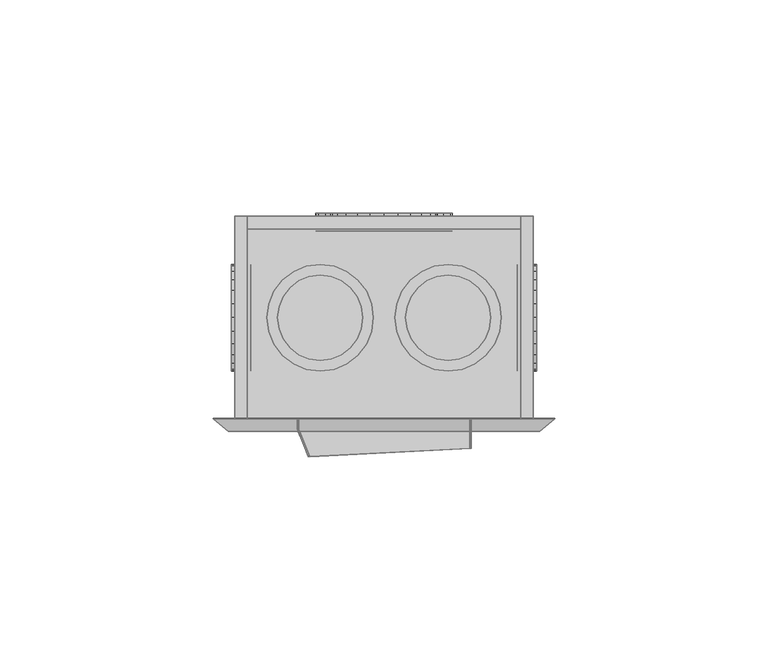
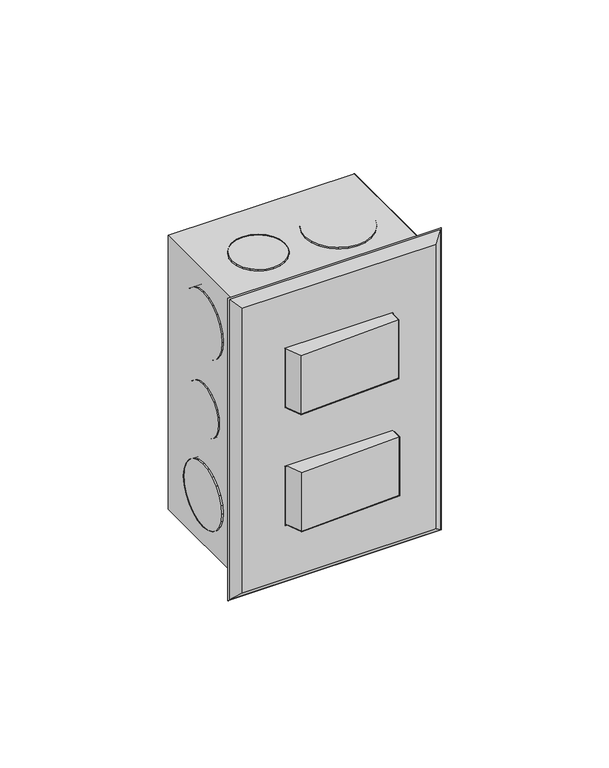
"""IFC4 building model written with IfcOpenShell, lengths in millimetres: proxy geometry,  210663 :  210663."""

from ifc_helpers import new_model, si_unit, origin, place, context, project, spatial, triangles, source, transform, mapped, element, save


def generic_models_86e0068b(model_context):
    return source(origin(), model_context, "Body", "Tessellation", [
        triangles([(5486.0000244, 27548.2998779, 1254.3000378), (5483.0002075, 27548.2998779, 1148.7000154), (5486.0000244, 27548.2998779, 1145.6999805), (5483.0002075, 27548.2998779, 1251.2999302), (5416.0002274, 27548.2998779, 1254.3000378), (5419.0000443, 27548.2998779, 1251.2999302), (5416.0002274, 27548.2998779, 1145.6999805), (5419.0000443, 27548.2998779, 1148.7000154), (5483.0002075, 27595.7993042, 1251.2999302), (5483.0002075, 27595.7993042, 1148.7000154), (5416.0002274, 27595.7993042, 1254.3000378), (5416.0002274, 27595.7993042, 1145.6999805), (5419.0000443, 27595.7993042, 1251.2999302), (5486.0000244, 27595.7993042, 1145.6999805), (5419.0000443, 27595.7993042, 1148.7000154), (5486.0000244, 27595.7993042, 1254.3000378), (5483.0002075, 27592.7994873, 1251.2999302), (5419.0000443, 27592.7994873, 1148.7000154), (5483.0002075, 27592.7994873, 1148.7000154), (5419.0000443, 27592.7994873, 1251.2999302), (5458.9999283, 27596.4992615, 1186.0999855), (5464.9001495, 27596.4992615, 1191.9999887), (5462.2997269, 27596.4992615, 1188.6999722), (5455.2001602, 27596.4992615, 1184.5000105), (5466.5000519, 27596.4992615, 1195.8999687), (5450.9998352, 27596.4992615, 1183.9999683), (5467.0000214, 27596.4992615, 1200.0000092), (5446.9000854, 27596.4992615, 1184.5000105), (5466.5000519, 27596.4992615, 1204.0999769), (5442.9997421, 27596.4992615, 1186.0999855), (5464.9001495, 27596.4992615, 1208.0000296), (5439.6999435, 27596.4992615, 1188.6999722), (5462.2997269, 27596.4992615, 1211.2999735), (5437.2000961, 27596.4992615, 1191.9999887), (5458.9999283, 27596.4992615, 1213.9000328), (5435.6001938, 27596.4992615, 1195.8999687), (5455.2001602, 27596.4992615, 1215.5000078), (5435.0002304, 27596.4992615, 1200.0000092), (5450.9998352, 27596.4992615, 1215.9999773), (5435.6001938, 27596.4992615, 1204.0999769), (5446.9000854, 27596.4992615, 1215.5000078), (5437.2000961, 27596.4992615, 1208.0000296), (5442.9997421, 27596.4992615, 1213.9000328), (5439.6999435, 27596.4992615, 1211.2999735), (5455.2001602, 27592.2995178, 1215.5000078), (5450.9998352, 27592.2995178, 1215.9999773), (5458.9999283, 27592.2995178, 1213.9000328), (5462.2997269, 27592.2995178, 1211.2999735), (5464.9001495, 27592.2995178, 1208.0000296), (5466.5000519, 27592.2995178, 1204.0999769), (5467.0000214, 27592.2995178, 1200.0000092), (5466.5000519, 27592.2995178, 1195.8999687), (5464.9001495, 27592.2995178, 1191.9999887), (5462.2997269, 27592.2995178, 1188.6999722), (5458.9999283, 27592.2995178, 1186.0999855), (5455.2001602, 27592.2995178, 1184.5000105), (5450.9998352, 27592.2995178, 1183.9999683), (5446.9000854, 27592.2995178, 1184.5000105), (5442.9997421, 27592.2995178, 1186.0999855), (5439.6999435, 27592.2995178, 1188.6999722), (5437.2000961, 27592.2995178, 1191.9999887), (5435.6001938, 27592.2995178, 1195.8999687), (5435.0002304, 27592.2995178, 1200.0000092), (5435.6001938, 27592.2995178, 1204.0999769), (5437.2000961, 27592.2995178, 1208.0000296), (5439.6999435, 27592.2995178, 1211.2999735), (5442.9997421, 27592.2995178, 1213.9000328), (5446.9000854, 27592.2995178, 1215.5000078), (5461.8997513, 27592.2995178, 1227.8000565), (5457.300032, 27592.2995178, 1223.2000465), (5459.8998734, 27592.2995178, 1225.2000698), (5463.1002594, 27592.2995178, 1230.8000187), (5454.3002151, 27592.2995178, 1221.8999805), (5463.500235, 27592.2995178, 1233.9999687), (5450.9998352, 27592.2995178, 1221.500005), (5463.1002594, 27592.2995178, 1237.2000641), (5447.8000305, 27592.2995178, 1221.8999805), (5461.8997513, 27592.2995178, 1240.3000202), (5444.8002136, 27592.2995178, 1223.2000465), (5459.8998734, 27592.2995178, 1242.800013), (5442.199791, 27592.2995178, 1225.2000698), (5440.199913, 27592.2995178, 1227.8000565), (5457.300032, 27592.2995178, 1244.8000362), (5454.3002151, 27592.2995178, 1246.0999569), (5438.9999863, 27592.2995178, 1230.8000187), (5450.9998352, 27592.2995178, 1246.4999325), (5438.5000168, 27592.2995178, 1233.9999687), (5447.8000305, 27592.2995178, 1246.0999569), (5438.9999863, 27592.2995178, 1237.2000641), (5440.199913, 27592.2995178, 1240.3000202), (5444.8002136, 27592.2995178, 1244.8000362), (5442.199791, 27592.2995178, 1242.800013), (5438.9999863, 27596.4992615, 1230.8000187), (5440.199913, 27596.4992615, 1227.8000565), (5442.199791, 27596.4992615, 1225.2000698), (5444.8002136, 27596.4992615, 1223.2000465), (5447.8000305, 27596.4992615, 1221.8999805), (5450.9998352, 27596.4992615, 1221.500005), (5454.3002151, 27596.4992615, 1221.8999805), (5457.300032, 27596.4992615, 1223.2000465), (5459.8998734, 27596.4992615, 1225.2000698), (5461.8997513, 27596.4992615, 1227.8000565), (5463.1002594, 27596.4992615, 1230.8000187), (5463.500235, 27596.4992615, 1233.9999687), (5463.1002594, 27596.4992615, 1237.2000641), (5461.8997513, 27596.4992615, 1240.3000202), (5459.8998734, 27596.4992615, 1242.800013), (5457.300032, 27596.4992615, 1244.8000362), (5454.3002151, 27596.4992615, 1246.0999569), (5450.9998352, 27596.4992615, 1246.4999325), (5447.8000305, 27596.4992615, 1246.0999569), (5444.8002136, 27596.4992615, 1244.8000362), (5442.199791, 27596.4992615, 1242.800013), (5440.199913, 27596.4992615, 1240.3000202), (5438.9999863, 27596.4992615, 1237.2000641), (5438.5000168, 27596.4992615, 1233.9999687), (5457.300032, 27596.4992615, 1155.1999821), (5461.8997513, 27596.4992615, 1159.6999981), (5459.8998734, 27596.4992615, 1157.2000053), (5454.3002151, 27596.4992615, 1153.8999887), (5463.1002594, 27596.4992615, 1162.8000269), (5450.9998352, 27596.4992615, 1153.5000132), (5463.500235, 27596.4992615, 1165.9999769), (5447.8000305, 27596.4992615, 1153.8999887), (5463.1002594, 27596.4992615, 1169.1999996), (5444.8002136, 27596.4992615, 1155.1999821), (5461.8997513, 27596.4992615, 1172.2000345), (5442.199791, 27596.4992615, 1157.2000053), (5459.8998734, 27596.4992615, 1174.8000212), (5440.199913, 27596.4992615, 1159.6999981), (5457.300032, 27596.4992615, 1176.7999718), (5438.9999863, 27596.4992615, 1162.8000269), (5454.3002151, 27596.4992615, 1178.0999651), (5450.9998352, 27596.4992615, 1178.5000134), (5438.5000168, 27596.4992615, 1165.9999769), (5438.9999863, 27596.4992615, 1169.1999996), (5447.8000305, 27596.4992615, 1178.0999651), (5440.199913, 27596.4992615, 1172.2000345), (5444.8002136, 27596.4992615, 1176.7999718), (5442.199791, 27596.4992615, 1174.8000212), (5454.3002151, 27592.2995178, 1178.0999651), (5450.9998352, 27592.2995178, 1178.5000134), (5457.300032, 27592.2995178, 1176.7999718), (5459.8998734, 27592.2995178, 1174.8000212), (5461.8997513, 27592.2995178, 1172.2000345), (5463.1002594, 27592.2995178, 1169.1999996), (5463.500235, 27592.2995178, 1165.9999769), (5463.1002594, 27592.2995178, 1162.8000269), (5461.8997513, 27592.2995178, 1159.6999981), (5459.8998734, 27592.2995178, 1157.2000053), (5457.300032, 27592.2995178, 1155.1999821), (5454.3002151, 27592.2995178, 1153.8999887), (5450.9998352, 27592.2995178, 1153.5000132), (5447.8000305, 27592.2995178, 1153.8999887), (5444.8002136, 27592.2995178, 1155.1999821), (5442.199791, 27592.2995178, 1157.2000053), (5440.199913, 27592.2995178, 1159.6999981), (5438.9999863, 27592.2995178, 1162.8000269), (5438.5000168, 27592.2995178, 1165.9999769), (5438.9999863, 27592.2995178, 1169.1999996), (5440.199913, 27592.2995178, 1172.2000345), (5442.199791, 27592.2995178, 1174.8000212), (5444.8002136, 27592.2995178, 1176.7999718), (5447.8000305, 27592.2995178, 1178.0999651), (5486.7999756, 27580.7002258, 1195.0000237), (5486.7999756, 27577.0004517, 1191.3000315), (5486.7999756, 27579.1003235, 1192.9000065), (5486.7999756, 27581.7001648, 1197.4000225), (5486.7999756, 27574.6005981, 1190.3000198), (5486.7999756, 27582.0001465, 1200.0000092), (5486.7999756, 27572.0007568, 1189.9999655), (5486.7999756, 27581.7001648, 1202.5999958), (5486.7999756, 27569.4009155, 1190.3000198), (5486.7999756, 27580.7002258, 1204.9999947), (5486.7999756, 27567.001062, 1191.3000315), (5486.7999756, 27579.1003235, 1207.1000118), (5486.7999756, 27564.8988647, 1192.9000065), (5486.7999756, 27577.0004517, 1208.6999868), (5486.7999756, 27563.2989624, 1195.0000237), (5486.7999756, 27574.6005981, 1209.6999985), (5486.7999756, 27562.2990234, 1197.4000225), (5486.7999756, 27561.9990417, 1200.0000092), (5486.7999756, 27572.0007568, 1209.9999802), (5486.7999756, 27569.4009155, 1209.6999985), (5486.7999756, 27562.2990234, 1202.5999958), (5486.7999756, 27567.001062, 1208.6999868), (5486.7999756, 27563.2989624, 1204.9999947), (5486.7999756, 27564.8988647, 1207.1000118), (5482.2002563, 27574.6005981, 1209.6999985), (5482.2002563, 27572.0007568, 1209.9999802), (5482.2002563, 27569.4009155, 1209.6999985), (5482.2002563, 27567.001062, 1208.6999868), (5482.2002563, 27564.8988647, 1207.1000118), (5482.2002563, 27563.2989624, 1204.9999947), (5482.2002563, 27562.2990234, 1202.5999958), (5482.2002563, 27561.9990417, 1200.0000092), (5482.2002563, 27562.2990234, 1197.4000225), (5482.2002563, 27563.2989624, 1195.0000237), (5482.2002563, 27564.8988647, 1192.9000065), (5482.2002563, 27567.001062, 1191.3000315), (5482.2002563, 27569.4009155, 1190.3000198), (5482.2002563, 27572.0007568, 1189.9999655), (5482.2002563, 27574.6005981, 1190.3000198), (5482.2002563, 27577.0004517, 1191.3000315), (5482.2002563, 27579.1003235, 1192.9000065), (5482.2002563, 27580.7002258, 1195.0000237), (5482.2002563, 27581.7001648, 1197.4000225), (5482.2002563, 27582.0001465, 1200.0000092), (5482.2002563, 27581.7001648, 1202.5999958), (5482.2002563, 27580.7002258, 1204.9999947), (5482.2002563, 27579.1003235, 1207.1000118), (5482.2002563, 27577.0004517, 1208.6999868), (5482.2002563, 27578.3003723, 1223.2000465), (5482.2002563, 27582.8000977, 1227.8000565), (5482.2002563, 27580.8002197, 1225.2000698), (5482.2002563, 27575.2005615, 1221.8999805), (5482.2002563, 27584.1000183, 1230.8000187), (5482.2002563, 27584.4999939, 1233.9999687), (5482.2002563, 27572.0007568, 1221.500005), (5482.2002563, 27568.8009521, 1221.8999805), (5482.2002563, 27584.1000183, 1237.2000641), (5482.2002563, 27582.8000977, 1240.3000202), (5482.2002563, 27565.8011353, 1223.2000465), (5482.2002563, 27563.1989685, 1225.2000698), (5482.2002563, 27580.8002197, 1242.800013), (5482.2002563, 27561.1990906, 1227.8000565), (5482.2002563, 27578.3003723, 1244.8000362), (5482.2002563, 27559.8991699, 1230.8000187), (5482.2002563, 27575.2005615, 1246.0999569), (5482.2002563, 27559.4991943, 1233.9999687), (5482.2002563, 27572.0007568, 1246.4999325), (5482.2002563, 27559.8991699, 1237.2000641), (5482.2002563, 27568.8009521, 1246.0999569), (5482.2002563, 27561.1990906, 1240.3000202), (5482.2002563, 27565.8011353, 1244.8000362), (5482.2002563, 27563.1989685, 1242.800013), (5486.7999756, 27572.0007568, 1221.500005), (5486.7999756, 27575.2005615, 1221.8999805), (5486.7999756, 27568.8009521, 1221.8999805), (5486.7999756, 27565.8011353, 1223.2000465), (5486.7999756, 27563.1989685, 1225.2000698), (5486.7999756, 27561.1990906, 1227.8000565), (5486.7999756, 27559.8991699, 1230.8000187), (5486.7999756, 27559.4991943, 1233.9999687), (5486.7999756, 27559.8991699, 1237.2000641), (5486.7999756, 27561.1990906, 1240.3000202), (5486.7999756, 27563.1989685, 1242.800013), (5486.7999756, 27565.8011353, 1244.8000362), (5486.7999756, 27568.8009521, 1246.0999569), (5486.7999756, 27572.0007568, 1246.4999325), (5486.7999756, 27575.2005615, 1246.0999569), (5486.7999756, 27578.3003723, 1244.8000362), (5486.7999756, 27580.8002197, 1242.800013), (5486.7999756, 27582.8000977, 1240.3000202), (5486.7999756, 27584.1000183, 1237.2000641), (5486.7999756, 27584.4999939, 1233.9999687), (5486.7999756, 27584.1000183, 1230.8000187), (5486.7999756, 27582.8000977, 1227.8000565), (5486.7999756, 27580.8002197, 1225.2000698), (5486.7999756, 27578.3003723, 1223.2000465), (5486.7999756, 27582.8000977, 1159.6999981), (5486.7999756, 27578.3003723, 1155.1999821), (5486.7999756, 27580.8002197, 1157.2000053), (5486.7999756, 27584.1000183, 1162.8000269), (5486.7999756, 27575.2005615, 1153.8999887), (5486.7999756, 27584.4999939, 1165.9999769), (5486.7999756, 27572.0007568, 1153.5000132), (5486.7999756, 27584.1000183, 1169.1999996), (5486.7999756, 27568.8009521, 1153.8999887), (5486.7999756, 27582.8000977, 1172.2000345), (5486.7999756, 27565.8011353, 1155.1999821), (5486.7999756, 27580.8002197, 1174.8000212), (5486.7999756, 27563.1989685, 1157.2000053), (5486.7999756, 27578.3003723, 1176.7999718), (5486.7999756, 27561.1990906, 1159.6999981), (5486.7999756, 27575.2005615, 1178.0999651), (5486.7999756, 27559.8991699, 1162.8000269), (5486.7999756, 27572.0007568, 1178.5000134), (5486.7999756, 27559.4991943, 1165.9999769), (5486.7999756, 27568.8009521, 1178.0999651), (5486.7999756, 27559.8991699, 1169.1999996), (5486.7999756, 27565.8011353, 1176.7999718), (5486.7999756, 27561.1990906, 1172.2000345), (5486.7999756, 27563.1989685, 1174.8000212), (5482.2002563, 27575.2005615, 1178.0999651), (5482.2002563, 27572.0007568, 1178.5000134), (5482.2002563, 27568.8009521, 1178.0999651), (5482.2002563, 27565.8011353, 1176.7999718), (5482.2002563, 27563.1989685, 1174.8000212), (5482.2002563, 27561.1990906, 1172.2000345), (5482.2002563, 27559.8991699, 1169.1999996), (5482.2002563, 27559.4991943, 1165.9999769), (5482.2002563, 27559.8991699, 1162.8000269), (5482.2002563, 27561.1990906, 1159.6999981), (5482.2002563, 27563.1989685, 1157.2000053), (5482.2002563, 27565.8011353, 1155.1999821), (5482.2002563, 27568.8009521, 1153.8999887), (5482.2002563, 27572.0007568, 1153.5000132), (5482.2002563, 27575.2005615, 1153.8999887), (5482.2002563, 27578.3003723, 1155.1999821), (5482.2002563, 27580.8002197, 1157.2000053), (5482.2002563, 27582.8000977, 1159.6999981), (5482.2002563, 27584.1000183, 1162.8000269), (5482.2002563, 27584.4999939, 1165.9999769), (5482.2002563, 27584.1000183, 1169.1999996), (5482.2002563, 27582.8000977, 1172.2000345), (5482.2002563, 27580.8002197, 1174.8000212), (5482.2002563, 27578.3003723, 1176.7999718), (5415.2002762, 27577.0004517, 1191.3000315), (5415.2002762, 27580.7002258, 1195.0000237), (5415.2002762, 27579.1003235, 1192.9000065), (5415.2002762, 27581.7001648, 1197.4000225), (5415.2002762, 27574.6005981, 1190.3000198), (5415.2002762, 27582.0001465, 1200.0000092), (5415.2002762, 27572.0007568, 1189.9999655), (5415.2002762, 27569.4009155, 1190.3000198), (5415.2002762, 27581.7001648, 1202.5999958), (5415.2002762, 27580.7002258, 1204.9999947), (5415.2002762, 27567.001062, 1191.3000315), (5415.2002762, 27579.1003235, 1207.1000118), (5415.2002762, 27564.8988647, 1192.9000065), (5415.2002762, 27563.2989624, 1195.0000237), (5415.2002762, 27577.0004517, 1208.6999868), (5415.2002762, 27562.2990234, 1197.4000225), (5415.2002762, 27574.6005981, 1209.6999985), (5415.2002762, 27561.9990417, 1200.0000092), (5415.2002762, 27572.0007568, 1209.9999802), (5415.2002762, 27562.2990234, 1202.5999958), (5415.2002762, 27569.4009155, 1209.6999985), (5415.2002762, 27567.001062, 1208.6999868), (5415.2002762, 27563.2989624, 1204.9999947), (5415.2002762, 27564.8988647, 1207.1000118), (5419.7999954, 27574.6005981, 1190.3000198), (5419.7999954, 27577.0004517, 1191.3000315), (5419.7999954, 27572.0007568, 1189.9999655), (5419.7999954, 27569.4009155, 1190.3000198), (5419.7999954, 27567.001062, 1191.3000315), (5419.7999954, 27564.8988647, 1192.9000065), (5419.7999954, 27563.2989624, 1195.0000237), (5419.7999954, 27562.2990234, 1197.4000225), (5419.7999954, 27561.9990417, 1200.0000092), (5419.7999954, 27562.2990234, 1202.5999958), (5419.7999954, 27563.2989624, 1204.9999947), (5419.7999954, 27564.8988647, 1207.1000118), (5419.7999954, 27567.001062, 1208.6999868), (5419.7999954, 27569.4009155, 1209.6999985), (5419.7999954, 27572.0007568, 1209.9999802), (5419.7999954, 27574.6005981, 1209.6999985), (5419.7999954, 27577.0004517, 1208.6999868), (5419.7999954, 27579.1003235, 1207.1000118), (5419.7999954, 27580.7002258, 1204.9999947), (5419.7999954, 27581.7001648, 1202.5999958), (5419.7999954, 27582.0001465, 1200.0000092), (5419.7999954, 27581.7001648, 1197.4000225), (5419.7999954, 27580.7002258, 1195.0000237), (5419.7999954, 27579.1003235, 1192.9000065), (5419.7999954, 27582.8000977, 1159.6999981), (5419.7999954, 27578.3003723, 1155.1999821), (5419.7999954, 27580.8002197, 1157.2000053), (5419.7999954, 27584.1000183, 1162.8000269), (5419.7999954, 27575.2005615, 1153.8999887), (5419.7999954, 27584.4999939, 1165.9999769), (5419.7999954, 27572.0007568, 1153.5000132), (5419.7999954, 27584.1000183, 1169.1999996), (5419.7999954, 27568.8009521, 1153.8999887), (5419.7999954, 27582.8000977, 1172.2000345), (5419.7999954, 27565.8011353, 1155.1999821), (5419.7999954, 27580.8002197, 1174.8000212), (5419.7999954, 27563.1989685, 1157.2000053), (5419.7999954, 27578.3003723, 1176.7999718), (5419.7999954, 27561.1990906, 1159.6999981), (5419.7999954, 27575.2005615, 1178.0999651), (5419.7999954, 27559.8991699, 1162.8000269), (5419.7999954, 27572.0007568, 1178.5000134), (5419.7999954, 27559.4991943, 1165.9999769), (5419.7999954, 27568.8009521, 1178.0999651), (5419.7999954, 27559.8991699, 1169.1999996), (5419.7999954, 27565.8011353, 1176.7999718), (5419.7999954, 27561.1990906, 1172.2000345), (5419.7999954, 27563.1989685, 1174.8000212), (5415.2002762, 27575.2005615, 1178.0999651), (5415.2002762, 27572.0007568, 1178.5000134), (5415.2002762, 27568.8009521, 1178.0999651), (5415.2002762, 27565.8011353, 1176.7999718), (5415.2002762, 27563.1989685, 1174.8000212), (5415.2002762, 27561.1990906, 1172.2000345), (5415.2002762, 27559.8991699, 1169.1999996), (5415.2002762, 27559.4991943, 1165.9999769), (5415.2002762, 27559.8991699, 1162.8000269), (5415.2002762, 27561.1990906, 1159.6999981), (5415.2002762, 27563.1989685, 1157.2000053), (5415.2002762, 27565.8011353, 1155.1999821), (5415.2002762, 27568.8009521, 1153.8999887), (5415.2002762, 27572.0007568, 1153.5000132), (5415.2002762, 27575.2005615, 1153.8999887), (5415.2002762, 27578.3003723, 1155.1999821), (5415.2002762, 27580.8002197, 1157.2000053), (5415.2002762, 27582.8000977, 1159.6999981), (5415.2002762, 27584.1000183, 1162.8000269), (5415.2002762, 27584.4999939, 1165.9999769), (5415.2002762, 27584.1000183, 1169.1999996), (5415.2002762, 27582.8000977, 1172.2000345), (5415.2002762, 27580.8002197, 1174.8000212), (5415.2002762, 27578.3003723, 1176.7999718), (5415.2002762, 27578.3003723, 1223.2000465), (5415.2002762, 27582.8000977, 1227.8000565), (5415.2002762, 27580.8002197, 1225.2000698), (5415.2002762, 27575.2005615, 1221.8999805), (5415.2002762, 27584.1000183, 1230.8000187), (5415.2002762, 27584.4999939, 1233.9999687), (5415.2002762, 27572.0007568, 1221.500005), (5415.2002762, 27568.8009521, 1221.8999805), (5415.2002762, 27584.1000183, 1237.2000641), (5415.2002762, 27582.8000977, 1240.3000202), (5415.2002762, 27565.8011353, 1223.2000465), (5415.2002762, 27563.1989685, 1225.2000698), (5415.2002762, 27580.8002197, 1242.800013), (5415.2002762, 27561.1990906, 1227.8000565), (5415.2002762, 27578.3003723, 1244.8000362), (5415.2002762, 27559.8991699, 1230.8000187), (5415.2002762, 27575.2005615, 1246.0999569), (5415.2002762, 27559.4991943, 1233.9999687), (5415.2002762, 27572.0007568, 1246.4999325), (5415.2002762, 27559.8991699, 1237.2000641), (5415.2002762, 27568.8009521, 1246.0999569), (5415.2002762, 27561.1990906, 1240.3000202), (5415.2002762, 27565.8011353, 1244.8000362), (5415.2002762, 27563.1989685, 1242.800013), (5419.7999954, 27572.0007568, 1221.500005), (5419.7999954, 27575.2005615, 1221.8999805), (5419.7999954, 27568.8009521, 1221.8999805), (5419.7999954, 27565.8011353, 1223.2000465), (5419.7999954, 27563.1989685, 1225.2000698), (5419.7999954, 27561.1990906, 1227.8000565), (5419.7999954, 27559.8991699, 1230.8000187), (5419.7999954, 27559.4991943, 1233.9999687), (5419.7999954, 27559.8991699, 1237.2000641), (5419.7999954, 27561.1990906, 1240.3000202), (5419.7999954, 27563.1989685, 1242.800013), (5419.7999954, 27565.8011353, 1244.8000362), (5419.7999954, 27568.8009521, 1246.0999569), (5419.7999954, 27572.0007568, 1246.4999325), (5419.7999954, 27575.2005615, 1246.0999569), (5419.7999954, 27578.3003723, 1244.8000362), (5419.7999954, 27580.8002197, 1242.800013), (5419.7999954, 27582.8000977, 1240.3000202), (5419.7999954, 27584.1000183, 1237.2000641), (5419.7999954, 27584.4999939, 1233.9999687), (5419.7999954, 27584.1000183, 1230.8000187), (5419.7999954, 27582.8000977, 1227.8000565), (5419.7999954, 27580.8002197, 1225.2000698), (5419.7999954, 27578.3003723, 1223.2000465), (5472.3002792, 27582.8000977, 1255.1999828), (5476.8999985, 27578.3003723, 1255.1999828), (5474.9001205, 27580.8002197, 1255.1999828), (5478.0999252, 27575.2005615, 1255.1999828), (5469.299881, 27584.1000183, 1255.1999828), (5466.0000824, 27584.4999939, 1255.1999828), (5478.4999008, 27572.0007568, 1255.1999828), (5478.0999252, 27568.8009521, 1255.1999828), (5462.8002777, 27584.1000183, 1255.1999828), (5459.7998795, 27582.8000977, 1255.1999828), (5476.8999985, 27565.8011353, 1255.1999828), (5474.9001205, 27563.1989685, 1255.1999828), (5457.2000381, 27580.8002197, 1255.1999828), (5455.2001602, 27578.3003723, 1255.1999828), (5472.3002792, 27561.1990906, 1255.1999828), (5469.299881, 27559.8991699, 1255.1999828), (5454.0002335, 27575.2005615, 1255.1999828), (5466.0000824, 27559.4991943, 1255.1999828), (5453.500264, 27572.0007568, 1255.1999828), (5462.8002777, 27559.8991699, 1255.1999828), (5454.0002335, 27568.8009521, 1255.1999828), (5455.2001602, 27565.8011353, 1255.1999828), (5459.7998795, 27561.1990906, 1255.1999828), (5457.2000381, 27563.1989685, 1255.1999828), (5466.0000824, 27559.4991943, 1250.9999485), (5469.299881, 27559.8991699, 1250.9999485), (5472.3002792, 27561.1990906, 1250.9999485), (5474.9001205, 27563.1989685, 1250.9999485), (5476.8999985, 27565.8011353, 1250.9999485), (5478.0999252, 27568.8009521, 1250.9999485), (5478.4999008, 27572.0007568, 1250.9999485), (5478.0999252, 27575.2005615, 1250.9999485), (5476.8999985, 27578.3003723, 1250.9999485), (5474.9001205, 27580.8002197, 1250.9999485), (5472.3002792, 27582.8000977, 1250.9999485), (5469.299881, 27584.1000183, 1250.9999485), (5466.0000824, 27584.4999939, 1250.9999485), (5462.8002777, 27584.1000183, 1250.9999485), (5459.7998795, 27582.8000977, 1250.9999485), (5457.2000381, 27580.8002197, 1250.9999485), (5455.2001602, 27578.3003723, 1250.9999485), (5454.0002335, 27575.2005615, 1250.9999485), (5453.500264, 27572.0007568, 1250.9999485), (5454.0002335, 27568.8009521, 1250.9999485), (5455.2001602, 27565.8011353, 1250.9999485), (5457.2000381, 27563.1989685, 1250.9999485), (5459.7998795, 27561.1990906, 1250.9999485), (5462.8002777, 27559.8991699, 1250.9999485), (5444.7002197, 27577.0004517, 1250.9999485), (5440.9998642, 27580.7002258, 1250.9999485), (5443.099736, 27579.1003235, 1250.9999485), (5438.6000107, 27581.7001648, 1250.9999485), (5445.7001587, 27574.6005981, 1250.9999485), (5436.0001694, 27582.0001465, 1250.9999485), (5446.0001404, 27572.0007568, 1250.9999485), (5445.7001587, 27569.4009155, 1250.9999485), (5433.3997467, 27581.7001648, 1250.9999485), (5430.9998932, 27580.7002258, 1250.9999485), (5444.7002197, 27567.001062, 1250.9999485), (5429.0000153, 27579.1003235, 1250.9999485), (5443.099736, 27564.8988647, 1250.9999485), (5440.9998642, 27563.2989624, 1250.9999485), (5427.4001129, 27577.0004517, 1250.9999485), (5426.400174, 27574.6005981, 1250.9999485), (5438.6000107, 27562.2990234, 1250.9999485), (5436.0001694, 27561.9990417, 1250.9999485), (5426.0001984, 27572.0007568, 1250.9999485), (5433.3997467, 27562.2990234, 1250.9999485), (5426.400174, 27569.4009155, 1250.9999485), (5430.9998932, 27563.2989624, 1250.9999485), (5427.4001129, 27567.001062, 1250.9999485), (5429.0000153, 27564.8988647, 1250.9999485), (5433.3997467, 27581.7001648, 1255.1999828), (5430.9998932, 27580.7002258, 1255.1999828), (5436.0001694, 27582.0001465, 1255.1999828), (5438.6000107, 27581.7001648, 1255.1999828), (5440.9998642, 27580.7002258, 1255.1999828), (5443.099736, 27579.1003235, 1255.1999828), (5444.7002197, 27577.0004517, 1255.1999828), (5445.7001587, 27574.6005981, 1255.1999828), (5446.0001404, 27572.0007568, 1255.1999828), (5445.7001587, 27569.4009155, 1255.1999828), (5444.7002197, 27567.001062, 1255.1999828), (5443.099736, 27564.8988647, 1255.1999828), (5440.9998642, 27563.2989624, 1255.1999828), (5438.6000107, 27562.2990234, 1255.1999828), (5436.0001694, 27561.9990417, 1255.1999828), (5433.3997467, 27562.2990234, 1255.1999828), (5430.9998932, 27563.2989624, 1255.1999828), (5429.0000153, 27564.8988647, 1255.1999828), (5427.4001129, 27567.001062, 1255.1999828), (5426.400174, 27569.4009155, 1255.1999828), (5426.0001984, 27572.0007568, 1255.1999828), (5426.400174, 27574.6005981, 1255.1999828), (5427.4001129, 27577.0004517, 1255.1999828), (5429.0000153, 27579.1003235, 1255.1999828), (5474.7001328, 27577.0004517, 1144.8000355), (5470.9997772, 27580.7002258, 1144.8000355), (5473.1002304, 27579.1003235, 1144.8000355), (5468.5999237, 27581.7001648, 1144.8000355), (5475.7000717, 27574.6005981, 1144.8000355), (5466.0000824, 27582.0001465, 1144.8000355), (5476.0000534, 27572.0007568, 1144.8000355), (5475.7000717, 27569.4009155, 1144.8000355), (5463.4002411, 27581.7001648, 1144.8000355), (5460.9998062, 27580.7002258, 1144.8000355), (5474.7001328, 27567.001062, 1144.8000355), (5458.9999283, 27579.1003235, 1144.8000355), (5473.1002304, 27564.8988647, 1144.8000355), (5470.9997772, 27563.2989624, 1144.8000355), (5457.4000259, 27577.0004517, 1144.8000355), (5456.400087, 27574.6005981, 1144.8000355), (5468.5999237, 27562.2990234, 1144.8000355), (5466.0000824, 27561.9990417, 1144.8000355), (5456.0001114, 27572.0007568, 1144.8000355), (5463.4002411, 27562.2990234, 1144.8000355), (5456.400087, 27569.4009155, 1144.8000355), (5460.9998062, 27563.2989624, 1144.8000355), (5457.4000259, 27567.001062, 1144.8000355), (5458.9999283, 27564.8988647, 1144.8000355), (5468.5999237, 27581.7001648, 1149.099991), (5466.0000824, 27582.0001465, 1149.099991), (5470.9997772, 27580.7002258, 1149.099991), (5473.1002304, 27579.1003235, 1149.099991), (5474.7001328, 27577.0004517, 1149.099991), (5475.7000717, 27574.6005981, 1149.099991), (5476.0000534, 27572.0007568, 1149.099991), (5475.7000717, 27569.4009155, 1149.099991), (5474.7001328, 27567.001062, 1149.099991), (5473.1002304, 27564.8988647, 1149.099991), (5470.9997772, 27563.2989624, 1149.099991), (5468.5999237, 27562.2990234, 1149.099991), (5466.0000824, 27561.9990417, 1149.099991), (5463.4002411, 27562.2990234, 1149.099991), (5460.9998062, 27563.2989624, 1149.099991), (5458.9999283, 27564.8988647, 1149.099991), (5457.4000259, 27567.001062, 1149.099991), (5456.400087, 27569.4009155, 1149.099991), (5456.0001114, 27572.0007568, 1149.099991), (5456.400087, 27574.6005981, 1149.099991), (5457.4000259, 27577.0004517, 1149.099991), (5458.9999283, 27579.1003235, 1149.099991), (5460.9998062, 27580.7002258, 1149.099991), (5463.4002411, 27581.7001648, 1149.099991), (5446.9000854, 27578.3003723, 1144.8000355), (5442.2997849, 27582.8000977, 1144.8000355), (5444.9002075, 27580.8002197, 1144.8000355), (5448.1000122, 27575.2005615, 1144.8000355), (5439.299968, 27584.1000183, 1144.8000355), (5436.0001694, 27584.4999939, 1144.8000355), (5448.4999878, 27572.0007568, 1144.8000355), (5448.1000122, 27568.8009521, 1144.8000355), (5432.7997833, 27584.1000183, 1144.8000355), (5429.7999664, 27582.8000977, 1144.8000355), (5446.9000854, 27565.8011353, 1144.8000355), (5444.9002075, 27563.1989685, 1144.8000355), (5427.2001251, 27580.8002197, 1144.8000355), (5425.2002472, 27578.3003723, 1144.8000355), (5442.2997849, 27561.1990906, 1144.8000355), (5439.299968, 27559.8991699, 1144.8000355), (5423.9997391, 27575.2005615, 1144.8000355), (5436.0001694, 27559.4991943, 1144.8000355), (5423.4997696, 27572.0007568, 1144.8000355), (5432.7997833, 27559.8991699, 1144.8000355), (5423.9997391, 27568.8009521, 1144.8000355), (5425.2002472, 27565.8011353, 1144.8000355), (5429.7999664, 27561.1990906, 1144.8000355), (5427.2001251, 27563.1989685, 1144.8000355), (5432.7997833, 27584.1000183, 1149.099991), (5429.7999664, 27582.8000977, 1149.099991), (5436.0001694, 27584.4999939, 1149.099991), (5439.299968, 27584.1000183, 1149.099991), (5442.2997849, 27582.8000977, 1149.099991), (5444.9002075, 27580.8002197, 1149.099991), (5446.9000854, 27578.3003723, 1149.099991), (5448.1000122, 27575.2005615, 1149.099991), (5448.4999878, 27572.0007568, 1149.099991), (5448.1000122, 27568.8009521, 1149.099991), (5446.9000854, 27565.8011353, 1149.099991), (5444.9002075, 27563.1989685, 1149.099991), (5442.2997849, 27561.1990906, 1149.099991), (5439.299968, 27559.8991699, 1149.099991), (5436.0001694, 27559.4991943, 1149.099991), (5432.7997833, 27559.8991699, 1149.099991), (5429.7999664, 27561.1990906, 1149.099991), (5427.2001251, 27563.1989685, 1149.099991), (5425.2002472, 27565.8011353, 1149.099991), (5423.9997391, 27568.8009521, 1149.099991), (5423.4997696, 27572.0007568, 1149.099991), (5423.9997391, 27575.2005615, 1149.099991), (5425.2002472, 27578.3003723, 1149.099991), (5427.2001251, 27580.8002197, 1149.099991), (5410.9999512, 27548.2998779, 1139.9999651), (5471.199765, 27548.2998779, 1164.5999897), (5490.9997192, 27548.2998779, 1139.9999651), (5430.7999054, 27548.2998779, 1164.5999897), (5410.9999512, 27548.2998779, 1259.9999805), (5430.7999054, 27548.2998779, 1188.0000149), (5430.7999054, 27548.2998779, 1211.3999674), (5430.7999054, 27548.2998779, 1234.8000652), (5490.9997192, 27548.2998779, 1259.9999805), (5471.199765, 27548.2998779, 1188.0000149), (5471.199765, 27548.2998779, 1211.3999674), (5471.199765, 27548.2998779, 1234.8000652), (5471.199765, 27545.300061, 1188.0000149), (5430.7999054, 27545.300061, 1188.0000149), (5471.199765, 27545.300061, 1234.8000652), (5430.7999054, 27545.300061, 1234.8000652), (5430.7999054, 27545.300061, 1164.5999897), (5430.7999054, 27545.300061, 1211.3999674), (5471.199765, 27545.300061, 1164.5999897), (5471.199765, 27545.300061, 1211.3999674), (5487.4999329, 27545.300061, 1143.4999695), (5487.4999329, 27545.300061, 1256.5000488), (5414.4997375, 27545.300061, 1143.4999695), (5414.4997375, 27545.300061, 1256.5000488), (5471.0997711, 27541.3003052, 1211.2999735), (5430.6999115, 27548.2998779, 1211.2999735), (5471.0997711, 27548.2998779, 1211.2999735), (5433.2997528, 27539.4004211, 1211.2999735), (5430.6999115, 27545.8000305, 1211.2999735), (5471.0997711, 27548.2998779, 1234.7000713), (5430.6999115, 27548.2998779, 1234.7000713), (5471.0997711, 27541.3003052, 1234.7000713), (5433.2997528, 27539.4004211, 1234.7000713), (5430.6999115, 27545.8000305, 1234.7000713), (5471.3997528, 27541.3003052, 1164.6999836), (5430.9998932, 27548.2998779, 1164.6999836), (5471.3997528, 27548.2998779, 1164.6999836), (5433.5997345, 27539.4004211, 1164.6999836), (5430.9998932, 27545.8000305, 1164.6999836), (5471.3997528, 27548.2998779, 1188.1000088), (5430.9998932, 27548.2998779, 1188.1000088), (5471.3997528, 27541.3003052, 1188.1000088), (5433.5997345, 27539.4004211, 1188.1000088), (5430.9998932, 27545.8000305, 1188.1000088)], [[1, 2, 3], [2, 1, 4], [5, 4, 1], [4, 5, 6], [3, 2, 7], [7, 2, 8], [7, 8, 6], [7, 6, 5], [2, 9, 10], [9, 2, 4], [7, 11, 12], [11, 7, 5], [4, 13, 9], [13, 4, 6], [3, 12, 14], [12, 3, 7], [13, 8, 15], [8, 13, 6], [16, 3, 14], [3, 16, 1], [15, 2, 10], [2, 15, 8], [11, 1, 16], [1, 11, 5], [12, 10, 14], [10, 12, 15], [11, 15, 12], [15, 11, 13], [14, 10, 16], [16, 10, 9], [16, 9, 13], [16, 13, 11], [17, 18, 19], [18, 17, 20], [18, 13, 15], [13, 18, 20], [19, 15, 10], [15, 19, 18], [9, 19, 10], [19, 9, 17], [13, 17, 9], [17, 13, 20], [15, 9, 10], [9, 15, 13], [21, 22, 23], [22, 21, 24], [25, 22, 24], [25, 24, 26], [27, 25, 26], [27, 26, 28], [29, 27, 28], [29, 28, 30], [31, 29, 30], [31, 30, 32], [31, 32, 33], [33, 32, 34], [33, 34, 35], [35, 34, 36], [35, 36, 37], [37, 36, 38], [37, 38, 39], [39, 38, 40], [39, 40, 41], [41, 40, 42], [41, 42, 43], [43, 42, 44], [39, 45, 37], [45, 39, 46], [37, 47, 35], [47, 37, 45], [35, 48, 33], [48, 35, 47], [33, 49, 31], [49, 33, 48], [31, 50, 29], [50, 31, 49], [29, 51, 27], [51, 29, 50], [27, 52, 25], [52, 27, 51], [25, 53, 22], [53, 25, 52], [22, 54, 23], [54, 22, 53], [54, 21, 23], [21, 54, 55], [55, 24, 21], [24, 55, 56], [56, 26, 24], [26, 56, 57], [57, 28, 26], [28, 57, 58], [58, 30, 28], [30, 58, 59], [59, 32, 30], [32, 59, 60], [60, 34, 32], [34, 60, 61], [61, 36, 34], [36, 61, 62], [62, 38, 36], [38, 62, 63], [63, 40, 38], [40, 63, 64], [64, 42, 40], [42, 64, 65], [65, 44, 42], [44, 65, 66], [44, 67, 43], [67, 44, 66], [43, 68, 41], [68, 43, 67], [41, 46, 39], [46, 41, 68], [53, 55, 54], [55, 53, 52], [56, 55, 52], [56, 52, 51], [57, 56, 51], [57, 51, 50], [58, 57, 50], [58, 50, 49], [59, 58, 49], [59, 49, 48], [59, 48, 60], [60, 48, 47], [60, 47, 61], [61, 47, 45], [61, 45, 62], [62, 45, 46], [62, 46, 63], [63, 46, 68], [63, 68, 64], [64, 68, 67], [64, 67, 65], [65, 67, 66], [69, 70, 71], [70, 69, 72], [73, 70, 72], [73, 72, 74], [75, 73, 74], [75, 74, 76], [77, 75, 76], [77, 76, 78], [79, 77, 78], [79, 78, 80], [81, 79, 80], [81, 80, 82], [82, 80, 83], [82, 83, 84], [82, 84, 85], [85, 84, 86], [85, 86, 87], [87, 86, 88], [87, 88, 89], [89, 88, 90], [90, 88, 91], [90, 91, 92], [82, 93, 94], [93, 82, 85], [81, 94, 95], [94, 81, 82], [79, 95, 96], [95, 79, 81], [77, 96, 97], [96, 77, 79], [75, 97, 98], [97, 75, 77], [73, 98, 99], [98, 73, 75], [70, 99, 100], [99, 70, 73], [71, 100, 101], [100, 71, 70], [102, 71, 101], [71, 102, 69], [103, 69, 102], [69, 103, 72], [104, 72, 103], [72, 104, 74], [105, 74, 104], [74, 105, 76], [106, 76, 105], [76, 106, 78], [107, 78, 106], [78, 107, 80], [108, 80, 107], [80, 108, 83], [109, 83, 108], [83, 109, 84], [110, 84, 109], [84, 110, 86], [111, 86, 110], [86, 111, 88], [112, 88, 111], [88, 112, 91], [113, 91, 112], [91, 113, 92], [90, 113, 114], [113, 90, 92], [89, 114, 115], [114, 89, 90], [87, 115, 116], [115, 87, 89], [85, 116, 93], [116, 85, 87], [100, 102, 101], [102, 100, 99], [103, 102, 99], [103, 99, 98], [104, 103, 98], [104, 98, 97], [105, 104, 97], [106, 105, 97], [106, 97, 96], [106, 96, 95], [106, 95, 107], [107, 95, 94], [107, 94, 108], [108, 94, 93], [108, 93, 109], [109, 93, 116], [109, 116, 110], [110, 116, 115], [110, 115, 111], [111, 115, 114], [111, 114, 112], [112, 114, 113], [117, 118, 119], [118, 117, 120], [121, 118, 120], [121, 120, 122], [123, 121, 122], [123, 122, 124], [125, 123, 124], [125, 124, 126], [127, 125, 126], [127, 126, 128], [127, 128, 129], [129, 128, 130], [129, 130, 131], [131, 130, 132], [131, 132, 133], [133, 132, 134], [134, 132, 135], [134, 135, 136], [134, 136, 137], [137, 136, 138], [137, 138, 139], [139, 138, 140], [134, 141, 133], [141, 134, 142], [133, 143, 131], [143, 133, 141], [131, 144, 129], [144, 131, 143], [129, 145, 127], [145, 129, 144], [127, 146, 125], [146, 127, 145], [125, 147, 123], [147, 125, 146], [123, 148, 121], [148, 123, 147], [121, 149, 118], [149, 121, 148], [118, 150, 119], [150, 118, 149], [150, 117, 119], [117, 150, 151], [151, 120, 117], [120, 151, 152], [152, 122, 120], [122, 152, 153], [153, 124, 122], [124, 153, 154], [154, 126, 124], [126, 154, 155], [155, 128, 126], [128, 155, 156], [156, 130, 128], [130, 156, 157], [157, 132, 130], [132, 157, 158], [158, 135, 132], [135, 158, 159], [159, 136, 135], [136, 159, 160], [160, 138, 136], [138, 160, 161], [161, 140, 138], [140, 161, 162], [140, 163, 139], [163, 140, 162], [139, 164, 137], [164, 139, 163], [137, 142, 134], [142, 137, 164], [149, 151, 150], [151, 149, 148], [152, 151, 148], [153, 152, 148], [153, 148, 147], [153, 147, 146], [154, 153, 146], [154, 146, 145], [155, 154, 145], [155, 145, 144], [156, 155, 144], [156, 144, 157], [157, 144, 143], [157, 143, 141], [157, 141, 158], [158, 141, 142], [158, 142, 159], [159, 142, 164], [159, 164, 160], [160, 164, 163], [160, 163, 161], [161, 163, 162], [165, 166, 167], [166, 165, 168], [169, 166, 168], [169, 168, 170], [171, 169, 170], [171, 170, 172], [173, 171, 172], [173, 172, 174], [175, 173, 174], [175, 174, 176], [177, 175, 176], [177, 176, 178], [177, 178, 179], [179, 178, 180], [179, 180, 181], [181, 180, 182], [182, 180, 183], [182, 183, 184], [182, 184, 185], [185, 184, 186], [185, 186, 187], [187, 186, 188], [189, 183, 180], [183, 189, 190], [190, 184, 183], [184, 190, 191], [191, 186, 184], [186, 191, 192], [192, 188, 186], [188, 192, 193], [188, 194, 187], [194, 188, 193], [187, 195, 185], [195, 187, 194], [185, 196, 182], [196, 185, 195], [182, 197, 181], [197, 182, 196], [181, 198, 179], [198, 181, 197], [179, 199, 177], [199, 179, 198], [177, 200, 175], [200, 177, 199], [175, 201, 173], [201, 175, 200], [173, 202, 171], [202, 173, 201], [171, 203, 169], [203, 171, 202], [169, 204, 166], [204, 169, 203], [166, 205, 167], [205, 166, 204], [205, 165, 167], [165, 205, 206], [206, 168, 165], [168, 206, 207], [207, 170, 168], [170, 207, 208], [208, 172, 170], [172, 208, 209], [209, 174, 172], [174, 209, 210], [210, 176, 174], [176, 210, 211], [211, 178, 176], [178, 211, 212], [212, 180, 178], [180, 212, 189], [204, 206, 205], [207, 206, 204], [207, 204, 203], [208, 207, 203], [208, 203, 202], [208, 202, 201], [209, 208, 201], [210, 209, 201], [210, 201, 200], [211, 210, 200], [211, 200, 199], [211, 199, 198], [211, 198, 212], [212, 198, 197], [212, 197, 189], [189, 197, 196], [189, 196, 190], [190, 196, 195], [190, 195, 191], [191, 195, 192], [192, 195, 194], [192, 194, 193], [213, 214, 215], [214, 213, 216], [217, 214, 216], [218, 217, 216], [218, 216, 219], [218, 219, 220], [221, 218, 220], [222, 221, 220], [222, 220, 223], [222, 223, 224], [222, 224, 225], [225, 224, 226], [225, 226, 227], [227, 226, 228], [227, 228, 229], [229, 228, 230], [229, 230, 231], [231, 230, 232], [231, 232, 233], [233, 232, 234], [233, 234, 235], [235, 234, 236], [237, 216, 238], [216, 237, 219], [239, 219, 237], [219, 239, 220], [240, 220, 239], [220, 240, 223], [241, 223, 240], [223, 241, 224], [242, 224, 241], [224, 242, 226], [243, 226, 242], [226, 243, 228], [244, 228, 243], [228, 244, 230], [245, 230, 244], [230, 245, 232], [246, 232, 245], [232, 246, 234], [247, 234, 246], [234, 247, 236], [235, 247, 248], [247, 235, 236], [233, 248, 249], [248, 233, 235], [231, 249, 250], [249, 231, 233], [229, 250, 251], [250, 229, 231], [227, 251, 252], [251, 227, 229], [225, 252, 253], [252, 225, 227], [222, 253, 254], [253, 222, 225], [221, 254, 255], [254, 221, 222], [218, 255, 256], [255, 218, 221], [217, 256, 257], [256, 217, 218], [214, 257, 258], [257, 214, 217], [215, 258, 259], [258, 215, 214], [260, 215, 259], [215, 260, 213], [238, 213, 260], [213, 238, 216], [258, 260, 259], [260, 258, 257], [238, 260, 257], [238, 257, 256], [237, 238, 256], [237, 256, 255], [239, 237, 255], [239, 255, 254], [240, 239, 254], [240, 254, 253], [240, 253, 241], [241, 253, 252], [241, 252, 242], [242, 252, 251], [242, 251, 243], [243, 251, 244], [244, 251, 250], [244, 250, 249], [244, 249, 245], [245, 249, 246], [246, 249, 248], [246, 248, 247], [261, 262, 263], [262, 261, 264], [265, 262, 264], [265, 264, 266], [267, 265, 266], [267, 266, 268], [269, 267, 268], [269, 268, 270], [271, 269, 270], [271, 270, 272], [271, 272, 273], [273, 272, 274], [273, 274, 275], [275, 274, 276], [275, 276, 277], [277, 276, 278], [277, 278, 279], [279, 278, 280], [279, 280, 281], [281, 280, 282], [281, 282, 283], [283, 282, 284], [285, 278, 276], [278, 285, 286], [286, 280, 278], [280, 286, 287], [287, 282, 280], [282, 287, 288], [288, 284, 282], [284, 288, 289], [284, 290, 283], [290, 284, 289], [283, 291, 281], [291, 283, 290], [281, 292, 279], [292, 281, 291], [279, 293, 277], [293, 279, 292], [277, 294, 275], [294, 277, 293], [275, 295, 273], [295, 275, 294], [273, 296, 271], [296, 273, 295], [271, 297, 269], [297, 271, 296], [269, 298, 267], [298, 269, 297], [267, 299, 265], [299, 267, 298], [265, 300, 262], [300, 265, 299], [262, 301, 263], [301, 262, 300], [301, 261, 263], [261, 301, 302], [302, 264, 261], [264, 302, 303], [303, 266, 264], [266, 303, 304], [304, 268, 266], [268, 304, 305], [305, 270, 268], [270, 305, 306], [306, 272, 270], [272, 306, 307], [307, 274, 272], [274, 307, 308], [308, 276, 274], [276, 308, 285], [300, 302, 301], [302, 300, 299], [303, 302, 299], [303, 299, 298], [304, 303, 298], [304, 298, 297], [305, 304, 297], [305, 297, 296], [306, 305, 296], [306, 296, 295], [306, 295, 307], [307, 295, 294], [307, 294, 308], [308, 294, 293], [308, 293, 285], [285, 293, 286], [286, 293, 292], [286, 292, 291], [286, 291, 287], [287, 291, 288], [288, 291, 290], [288, 290, 289], [309, 310, 311], [312, 310, 309], [312, 309, 313], [314, 312, 313], [314, 313, 315], [314, 315, 316], [317, 314, 316], [318, 317, 316], [318, 316, 319], [320, 318, 319], [320, 319, 321], [320, 321, 322], [320, 322, 323], [323, 322, 324], [323, 324, 325], [325, 324, 326], [325, 326, 327], [327, 326, 328], [327, 328, 329], [329, 328, 330], [330, 328, 331], [330, 331, 332], [333, 309, 334], [309, 333, 313], [335, 313, 333], [313, 335, 315], [336, 315, 335], [315, 336, 316], [337, 316, 336], [316, 337, 319], [338, 319, 337], [319, 338, 321], [339, 321, 338], [321, 339, 322], [340, 322, 339], [322, 340, 324], [341, 324, 340], [324, 341, 326], [342, 326, 341], [326, 342, 328], [343, 328, 342], [328, 343, 331], [344, 331, 343], [331, 344, 332], [330, 344, 345], [344, 330, 332], [329, 345, 346], [345, 329, 330], [327, 346, 347], [346, 327, 329], [325, 347, 348], [347, 325, 327], [323, 348, 349], [348, 323, 325], [320, 349, 350], [349, 320, 323], [318, 350, 351], [350, 318, 320], [317, 351, 352], [351, 317, 318], [314, 352, 353], [352, 314, 317], [312, 353, 354], [353, 312, 314], [310, 354, 355], [354, 310, 312], [311, 355, 356], [355, 311, 310], [334, 311, 356], [311, 334, 309], [355, 334, 356], [334, 355, 354], [333, 334, 354], [333, 354, 353], [335, 333, 353], [335, 353, 352], [336, 335, 352], [336, 352, 351], [337, 336, 351], [337, 351, 350], [338, 337, 350], [338, 350, 349], [338, 349, 339], [339, 349, 348], [339, 348, 340], [340, 348, 341], [341, 348, 347], [341, 347, 346], [341, 346, 342], [342, 346, 345], [342, 345, 343], [343, 345, 344], [357, 358, 359], [358, 357, 360], [361, 358, 360], [361, 360, 362], [363, 361, 362], [363, 362, 364], [365, 363, 364], [365, 364, 366], [367, 365, 366], [367, 366, 368], [367, 368, 369], [369, 368, 370], [369, 370, 371], [371, 370, 372], [371, 372, 373], [373, 372, 374], [373, 374, 375], [375, 374, 376], [375, 376, 377], [377, 376, 378], [377, 378, 379], [379, 378, 380], [381, 374, 372], [374, 381, 382], [382, 376, 374], [376, 382, 383], [383, 378, 376], [378, 383, 384], [384, 380, 378], [380, 384, 385], [380, 386, 379], [386, 380, 385], [379, 387, 377], [387, 379, 386], [377, 388, 375], [388, 377, 387], [375, 389, 373], [389, 375, 388], [373, 390, 371], [390, 373, 389], [371, 391, 369], [391, 371, 390], [369, 392, 367], [392, 369, 391], [367, 393, 365], [393, 367, 392], [365, 394, 363], [394, 365, 393], [363, 395, 361], [395, 363, 394], [361, 396, 358], [396, 361, 395], [358, 397, 359], [397, 358, 396], [397, 357, 359], [357, 397, 398], [398, 360, 357], [360, 398, 399], [399, 362, 360], [362, 399, 400], [400, 364, 362], [364, 400, 401], [401, 366, 364], [366, 401, 402], [402, 368, 366], [368, 402, 403], [403, 370, 368], [370, 403, 404], [404, 372, 370], [372, 404, 381], [396, 398, 397], [398, 396, 395], [399, 398, 395], [399, 395, 394], [400, 399, 394], [400, 394, 393], [401, 400, 393], [401, 393, 392], [402, 401, 392], [402, 392, 391], [402, 391, 403], [403, 391, 390], [403, 390, 404], [404, 390, 389], [404, 389, 381], [381, 389, 382], [382, 389, 388], [382, 388, 387], [382, 387, 383], [383, 387, 384], [384, 387, 386], [384, 386, 385], [405, 406, 407], [406, 405, 408], [409, 406, 408], [410, 409, 408], [410, 408, 411], [410, 411, 412], [413, 410, 412], [414, 413, 412], [414, 412, 415], [414, 415, 416], [414, 416, 417], [417, 416, 418], [417, 418, 419], [419, 418, 420], [419, 420, 421], [421, 420, 422], [421, 422, 423], [423, 422, 424], [423, 424, 425], [425, 424, 426], [425, 426, 427], [427, 426, 428], [429, 408, 430], [408, 429, 411], [431, 411, 429], [411, 431, 412], [432, 412, 431], [412, 432, 415], [433, 415, 432], [415, 433, 416], [434, 416, 433], [416, 434, 418], [435, 418, 434], [418, 435, 420], [436, 420, 435], [420, 436, 422], [437, 422, 436], [422, 437, 424], [438, 424, 437], [424, 438, 426], [439, 426, 438], [426, 439, 428], [427, 439, 440], [439, 427, 428], [425, 440, 441], [440, 425, 427], [423, 441, 442], [441, 423, 425], [421, 442, 443], [442, 421, 423], [419, 443, 444], [443, 419, 421], [417, 444, 445], [444, 417, 419], [414, 445, 446], [445, 414, 417], [413, 446, 447], [446, 413, 414], [410, 447, 448], [447, 410, 413], [409, 448, 449], [448, 409, 410], [406, 449, 450], [449, 406, 409], [407, 450, 451], [450, 407, 406], [452, 407, 451], [407, 452, 405], [430, 405, 452], [405, 430, 408], [450, 452, 451], [452, 450, 449], [430, 452, 449], [430, 449, 448], [429, 430, 448], [429, 448, 447], [431, 429, 447], [431, 447, 446], [432, 431, 446], [432, 446, 445], [432, 445, 433], [433, 445, 444], [433, 444, 434], [434, 444, 443], [434, 443, 435], [435, 443, 436], [436, 443, 442], [436, 442, 441], [436, 441, 437], [437, 441, 438], [438, 441, 440], [438, 440, 439], [453, 454, 455], [456, 454, 453], [456, 453, 457], [456, 457, 458], [459, 456, 458], [460, 459, 458], [460, 458, 461], [460, 461, 462], [463, 460, 462], [464, 463, 462], [464, 462, 465], [464, 465, 466], [464, 466, 467], [467, 466, 468], [468, 466, 469], [468, 469, 470], [470, 469, 471], [470, 471, 472], [472, 471, 473], [472, 473, 474], [472, 474, 475], [475, 474, 476], [468, 477, 478], [477, 468, 470], [467, 478, 479], [478, 467, 468], [464, 479, 480], [479, 464, 467], [463, 480, 481], [480, 463, 464], [460, 481, 482], [481, 460, 463], [459, 482, 483], [482, 459, 460], [456, 483, 484], [483, 456, 459], [454, 484, 485], [484, 454, 456], [455, 485, 486], [485, 455, 454], [487, 455, 486], [455, 487, 453], [488, 453, 487], [453, 488, 457], [489, 457, 488], [457, 489, 458], [490, 458, 489], [458, 490, 461], [491, 461, 490], [461, 491, 462], [492, 462, 491], [462, 492, 465], [493, 465, 492], [465, 493, 466], [494, 466, 493], [466, 494, 469], [495, 469, 494], [469, 495, 471], [496, 471, 495], [471, 496, 473], [497, 473, 496], [473, 497, 474], [498, 474, 497], [474, 498, 476], [475, 498, 499], [498, 475, 476], [472, 499, 500], [499, 472, 475], [470, 500, 477], [500, 470, 472], [485, 487, 486], [487, 485, 484], [488, 487, 484], [489, 488, 484], [489, 484, 483], [489, 483, 482], [490, 489, 482], [491, 490, 482], [491, 482, 481], [491, 481, 480], [492, 491, 480], [492, 480, 493], [493, 480, 479], [493, 479, 478], [493, 478, 494], [494, 478, 477], [494, 477, 495], [495, 477, 500], [495, 500, 496], [496, 500, 497], [497, 500, 499], [497, 499, 498], [501, 502, 503], [504, 502, 501], [504, 501, 505], [506, 504, 505], [506, 505, 507], [506, 507, 508], [509, 506, 508], [510, 509, 508], [510, 508, 511], [512, 510, 511], [512, 511, 513], [512, 513, 514], [512, 514, 515], [515, 514, 516], [516, 514, 517], [516, 517, 518], [516, 518, 519], [519, 518, 520], [519, 520, 521], [521, 520, 522], [521, 522, 523], [523, 522, 524], [510, 525, 509], [525, 510, 526], [509, 527, 506], [527, 509, 525], [506, 528, 504], [528, 506, 527], [504, 529, 502], [529, 504, 528], [502, 530, 503], [530, 502, 529], [530, 501, 503], [501, 530, 531], [531, 505, 501], [505, 531, 532], [532, 507, 505], [507, 532, 533], [533, 508, 507], [508, 533, 534], [534, 511, 508], [511, 534, 535], [535, 513, 511], [513, 535, 536], [536, 514, 513], [514, 536, 537], [537, 517, 514], [517, 537, 538], [538, 518, 517], [518, 538, 539], [539, 520, 518], [520, 539, 540], [540, 522, 520], [522, 540, 541], [541, 524, 522], [524, 541, 542], [524, 543, 523], [543, 524, 542], [523, 544, 521], [544, 523, 543], [521, 545, 519], [545, 521, 544], [519, 546, 516], [546, 519, 545], [516, 547, 515], [547, 516, 546], [515, 548, 512], [548, 515, 547], [512, 526, 510], [526, 512, 548], [529, 531, 530], [531, 529, 528], [532, 531, 528], [532, 528, 527], [533, 532, 527], [534, 533, 527], [534, 527, 525], [534, 525, 526], [535, 534, 526], [535, 526, 548], [536, 535, 548], [536, 548, 537], [537, 548, 547], [537, 547, 546], [537, 546, 538], [538, 546, 539], [539, 546, 545], [539, 545, 540], [540, 545, 544], [540, 544, 541], [541, 544, 543], [541, 543, 542], [549, 550, 551], [552, 550, 549], [552, 549, 553], [554, 552, 553], [554, 553, 555], [554, 555, 556], [557, 554, 556], [558, 557, 556], [558, 556, 559], [560, 558, 559], [560, 559, 561], [560, 561, 562], [560, 562, 563], [563, 562, 564], [564, 562, 565], [564, 565, 566], [564, 566, 567], [567, 566, 568], [567, 568, 569], [569, 568, 570], [569, 570, 571], [571, 570, 572], [554, 573, 552], [573, 554, 574], [552, 575, 550], [575, 552, 573], [550, 576, 551], [576, 550, 575], [576, 549, 551], [549, 576, 577], [577, 553, 549], [553, 577, 578], [578, 555, 553], [555, 578, 579], [579, 556, 555], [556, 579, 580], [580, 559, 556], [559, 580, 581], [581, 561, 559], [561, 581, 582], [582, 562, 561], [562, 582, 583], [583, 565, 562], [565, 583, 584], [584, 566, 565], [566, 584, 585], [585, 568, 566], [568, 585, 586], [586, 570, 568], [570, 586, 587], [587, 572, 570], [572, 587, 588], [572, 589, 571], [589, 572, 588], [571, 590, 569], [590, 571, 589], [569, 591, 567], [591, 569, 590], [567, 592, 564], [592, 567, 591], [564, 593, 563], [593, 564, 592], [563, 594, 560], [594, 563, 593], [560, 595, 558], [595, 560, 594], [558, 596, 557], [596, 558, 595], [557, 574, 554], [574, 557, 596], [575, 577, 576], [577, 575, 573], [578, 577, 573], [578, 573, 574], [579, 578, 574], [580, 579, 574], [580, 574, 596], [580, 596, 595], [581, 580, 595], [581, 595, 594], [582, 581, 594], [582, 594, 583], [583, 594, 593], [583, 593, 592], [583, 592, 584], [584, 592, 585], [585, 592, 591], [585, 591, 586], [586, 591, 590], [586, 590, 587], [587, 590, 589], [587, 589, 588], [597, 598, 599], [598, 597, 600], [601, 598, 600], [602, 601, 600], [602, 600, 603], [602, 603, 604], [605, 602, 604], [606, 605, 604], [606, 604, 607], [606, 607, 608], [609, 606, 608], [609, 608, 610], [610, 608, 611], [610, 611, 612], [610, 612, 613], [613, 612, 614], [613, 614, 615], [615, 614, 616], [615, 616, 617], [617, 616, 618], [618, 616, 619], [618, 619, 620], [606, 621, 605], [621, 606, 622], [605, 623, 602], [623, 605, 621], [602, 624, 601], [624, 602, 623], [601, 625, 598], [625, 601, 624], [598, 626, 599], [626, 598, 625], [626, 597, 599], [597, 626, 627], [627, 600, 597], [600, 627, 628], [628, 603, 600], [603, 628, 629], [629, 604, 603], [604, 629, 630], [630, 607, 604], [607, 630, 631], [631, 608, 607], [608, 631, 632], [632, 611, 608], [611, 632, 633], [633, 612, 611], [612, 633, 634], [634, 614, 612], [614, 634, 635], [635, 616, 614], [616, 635, 636], [636, 619, 616], [619, 636, 637], [637, 620, 619], [620, 637, 638], [620, 639, 618], [639, 620, 638], [618, 640, 617], [640, 618, 639], [617, 641, 615], [641, 617, 640], [615, 642, 613], [642, 615, 641], [613, 643, 610], [643, 613, 642], [610, 644, 609], [644, 610, 643], [609, 622, 606], [622, 609, 644], [625, 627, 626], [628, 627, 625], [628, 625, 624], [628, 624, 623], [629, 628, 623], [630, 629, 623], [630, 623, 621], [630, 621, 622], [631, 630, 622], [632, 631, 622], [632, 622, 644], [632, 644, 643], [632, 643, 633], [633, 643, 634], [634, 643, 642], [634, 642, 635], [635, 642, 641], [635, 641, 636], [636, 641, 640], [636, 640, 639], [636, 639, 637], [637, 639, 638], [645, 646, 647], [646, 645, 648], [649, 648, 645], [648, 649, 650], [650, 649, 651], [651, 649, 652], [647, 646, 653], [653, 646, 654], [653, 654, 655], [653, 655, 656], [653, 656, 652], [653, 652, 649], [650, 655, 654], [655, 650, 651], [657, 650, 654], [650, 657, 658], [659, 652, 656], [652, 659, 660], [650, 661, 648], [661, 650, 658], [652, 662, 651], [662, 652, 660], [648, 663, 646], [663, 648, 661], [651, 664, 655], [664, 651, 662], [663, 654, 646], [654, 663, 657], [664, 656, 655], [656, 664, 659], [653, 665, 647], [665, 653, 666], [647, 665, 645], [645, 665, 667], [668, 645, 667], [645, 668, 649], [653, 668, 666], [649, 668, 653], [664, 658, 657], [658, 664, 662], [666, 663, 665], [663, 666, 657], [657, 666, 664], [664, 666, 659], [660, 659, 666], [668, 660, 666], [665, 663, 667], [667, 663, 661], [667, 661, 668], [668, 661, 658], [668, 658, 662], [668, 662, 660], [669, 670, 671], [670, 669, 672], [670, 672, 673], [670, 674, 671], [674, 670, 675], [674, 669, 671], [669, 674, 676], [676, 672, 669], [672, 676, 677], [672, 678, 673], [678, 672, 677], [673, 675, 670], [675, 673, 678], [675, 676, 674], [676, 675, 677], [677, 675, 678], [679, 680, 681], [680, 679, 682], [680, 682, 683], [680, 684, 681], [684, 680, 685], [684, 679, 681], [679, 684, 686], [686, 682, 679], [682, 686, 687], [682, 688, 683], [688, 682, 687], [683, 685, 680], [685, 683, 688], [685, 686, 684], [686, 685, 687], [687, 685, 688]], closed=False),
    ])


if __name__ == "__main__":
    model = new_model("IFC4")
    model_context = context("Model", 3, world=origin())
    ifc_project = project(units=[si_unit("LENGTHUNIT", "METRE", prefix="MILLI")], contexts=[model_context])
    site = spatial("IfcSite", under=ifc_project)
    building = spatial("IfcBuilding", under=site)
    placement = place(None, origin())
    generic_models_shape = generic_models_86e0068b(model_context)
    element("IfcBuildingElementProxy", 1, Name=" 210663 :  210663", ObjectType=" 210663 :  210663", at=placement, inside=building, context=model_context, shape_type="MappedRepresentation", body=[
        mapped(generic_models_shape, transform((0.0, 0.0, 0.0), x_axis=(1.0, 0.0, 0.0), y_axis=(0.0, 1.0, 0.0), z_axis=(0.0, 0.0, 1.0))),
    ])
    save(model, "model.ifc")
